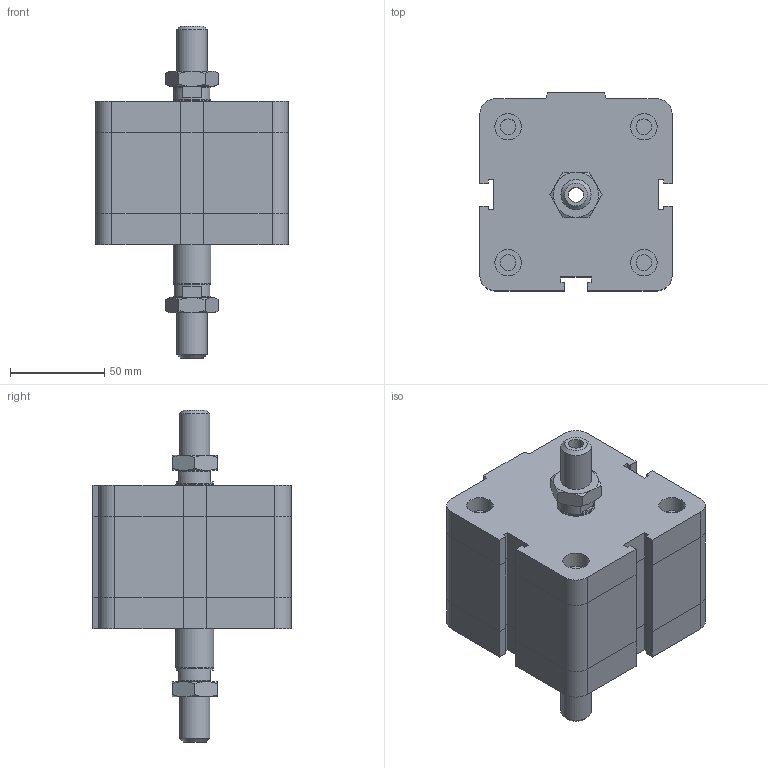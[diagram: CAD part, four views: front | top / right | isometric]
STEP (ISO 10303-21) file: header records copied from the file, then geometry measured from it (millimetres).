
FILE_DESCRIPTION((''),'2;1');
FILE_NAME('I:\Area Tecnica\Disegni\VARIE-3D\Componenti\EUROPE\15##_###_####_05_#\1561_80_0020_05_1.iam.stp','2009-04-20T14:57:30',(''),(''),'Autodesk Inventor 2009','Autodesk Inventor 2009','');
FILE_SCHEMA(('AUTOMOTIVE_DESIGN { 1 0 10303 214 1 1 1 1 }'));
Length unit declared in the file: millimetre
Products named in the file (4): 1561_80_0020_05_1; 1561_80_0020_03_1_C; 1561_80_0020_05_1_S; DBFM16
Assembly tree (4 placements, depth 2):
  1561_80_0020_05_1
    1561_80_0020_03_1_C
    1561_80_0020_05_1_S
    DBFM16  x2
Bounding box: 102 x 105 x 176 mm (x, y, z)
Volume: 771626.5 mm3; surface area: 84870 mm2
Topology: 4 solids, 4 shells, 223 faces, 486 edges, 291 vertices
Faces by surface type: plane 129, cone 37, bspline 32, cylinder 25
Full cylindrical faces by diameter (mm): 8.376 x4, 14 x4, 14.5 x1, 16 x1, 19.5 x2, 20 x1
Entity records: 5484 total; most frequent: CARTESIAN_POINT 1227, DIRECTION 808, ORIENTED_EDGE 776, EDGE_CURVE 388, AXIS2_PLACEMENT_3D 275, EDGE_LOOP 262, VECTOR 258, LINE 258
